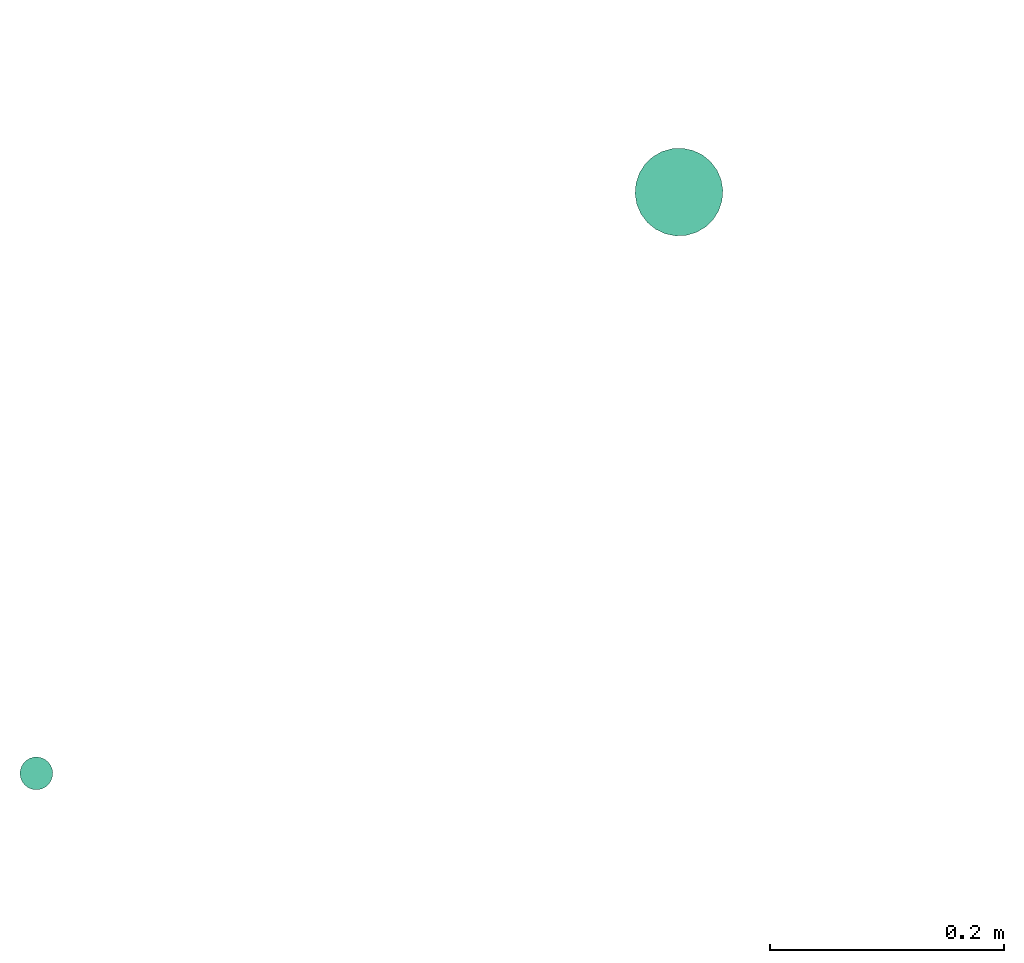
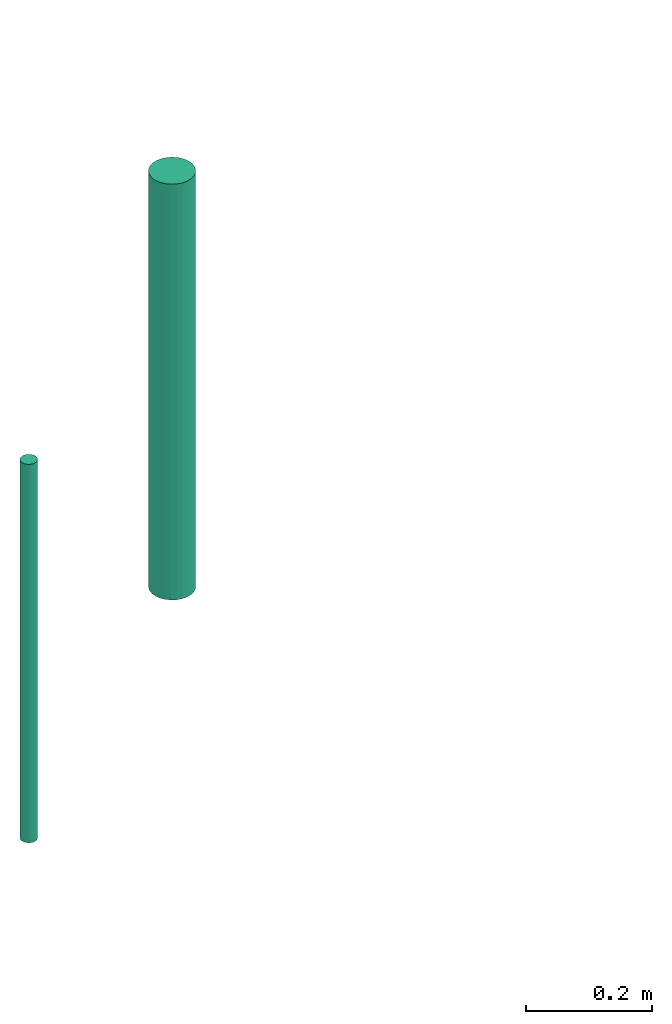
# One storey, part 2 of 3: 2 flow segments.
"""IFC2X3 building model written with IfcOpenShell, lengths in millimetres."""

from ifc_helpers import new_model, entity, si_unit, converted_unit, derived_unit, direction, frame, frame_2d, origin, origin_with_axes, origin_2d_with_axis, place, context, subcontext, project, spatial, circle, extrude, type_object, element, save


model = new_model("IFC2X3")

# Units and contexts
model_context = context("Model", 3, precision=0.01, world=origin(), true_north=direction((6.12323399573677e-17, 1.0)))
plan_context = context("Plan", 3, precision=1e-05, world=origin_with_axes())
body_context = subcontext(model_context, "Body", "Model", "MODEL_VIEW")
ifc_project = project(units=[converted_unit("PLANEANGLEUNIT", "DEGREE", entity("IfcPositiveLengthMeasure", 0.0174532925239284), si_unit("PLANEANGLEUNIT", "RADIAN"), dimensions=[0, 0, 0, 0, 0, 0, 0]), si_unit("AREAUNIT", "SQUARE_METRE"), si_unit("LENGTHUNIT", "METRE", prefix="MILLI"), si_unit("MASSUNIT", "GRAM", prefix="KILO"), si_unit("POWERUNIT", "WATT"), si_unit("PRESSUREUNIT", "PASCAL", prefix="KILO"), si_unit("FORCEUNIT", "NEWTON", prefix="KILO"), si_unit("ELECTRICVOLTAGEUNIT", "VOLT"), si_unit("ELECTRICCURRENTUNIT", "AMPERE"), si_unit("THERMODYNAMICTEMPERATUREUNIT", "DEGREE_CELSIUS"), si_unit("TIMEUNIT", "SECOND"), si_unit("VOLUMEUNIT", "CUBIC_METRE"), derived_unit("LINEARVELOCITYUNIT", [(si_unit("LENGTHUNIT", "METRE"), 1), (si_unit("TIMEUNIT", "SECOND"), -1)]), derived_unit("VOLUMETRICFLOWRATEUNIT", [(si_unit("VOLUMEUNIT", "CUBIC_METRE"), 1), (si_unit("TIMEUNIT", "SECOND"), -1)]), derived_unit("THERMALTRANSMITTANCEUNIT", [(si_unit("POWERUNIT", "WATT"), 1), (si_unit("THERMODYNAMICTEMPERATUREUNIT", "KELVIN"), -1), (si_unit("AREAUNIT", "SQUARE_METRE"), -1)]), derived_unit("SOUNDPRESSUREUNIT", [(si_unit("PRESSUREUNIT", "PASCAL"), 1)])], contexts=[model_context, plan_context])

# Site, building, storey
site_placement = place(None, frame((-0.000710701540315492, 0.00438415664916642, 0.0), z_axis=(0.0, 0.0, 1.0), x_axis=(-0.160236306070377, 0.987078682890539, 0.0)))
site = spatial("IfcSite", under=ifc_project, at=site_placement, Name="Default", CompositionType="ELEMENT")
building_placement = place(site_placement, origin_with_axes())
building = spatial("IfcBuilding", under=site, at=building_placement, CompositionType="ELEMENT")
storey_placement = place(building_placement, frame((0.0, 0.0, 48160.0), z_axis=(0.0, 0.0, 1.0), x_axis=(1.0, 0.0, 0.0)))
storey = spatial("IfcBuildingStorey", under=building, at=storey_placement, Name="Nivå C", CompositionType="ELEMENT", Elevation=48160.0)

# Flow segments
pipe_segment_type_1 = type_object("IfcPipeSegmentType", Name="Pipe Types:MA", PredefinedType="NOTDEFINED")
flow_segment_1_placement = place(storey_placement, origin_with_axes())
element("IfcFlowSegment", 1, at=flow_segment_1_placement, inside=storey, type_object=pipe_segment_type_1, Name="Pipe Types:MA", ObjectType="Pipe Types:MA", context=body_context, shape_type="SweptSolid", body=[
    extrude(circle(Radius=37.5, at=origin_2d_with_axis()), frame((777328.713006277, -589559.15871903, 2070.95525130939), z_axis=(0.0, 0.0, 1.0), x_axis=(-1.0, 0.0, 0.0)), (0.0, 0.0, 1.0), 804.044748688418),
])
pipe_segment_type_2 = type_object("IfcPipeSegmentType", Name="Pipe Types:Kobberrør", PredefinedType="NOTDEFINED")
flow_segment_2_placement = place(storey_placement, origin_with_axes())
element("IfcFlowSegment", 2, at=flow_segment_2_placement, inside=storey, type_object=pipe_segment_type_2, Name="Pipe Types:Kobberrør", ObjectType="Pipe Types:Kobberrør", context=body_context, shape_type="SweptSolid", body=[
    extrude(circle(Radius=14.0, at=frame_2d((0.0, -6.93034962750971e-11), x_axis=(1.0, 0.0))), frame((776926.619644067, -588937.941515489, 2077.9999999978)), (0.0, 0.0, 1.0), 731.99999999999),
])

save(model, "model.ifc")
